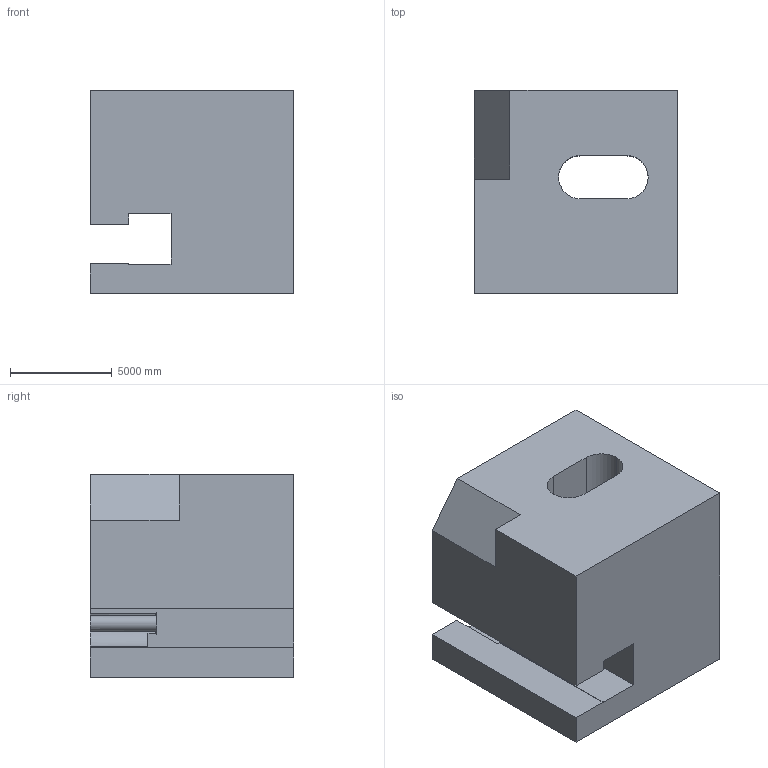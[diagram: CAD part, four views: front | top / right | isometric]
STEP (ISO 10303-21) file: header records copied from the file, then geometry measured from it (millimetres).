
FILE_DESCRIPTION (( 'STEP AP203' ), '1' );
FILE_NAME ('116.STEP', '2022-08-31T11:40:41', ( 'user' ), ( '' ), 'SwSTEP 2.0', 'SolidWorks 2021', '' );
FILE_SCHEMA (( 'CONFIG_CONTROL_DESIGN' ));
Length unit declared in the file: centimetre
Products named in the file (1): 116
Bounding box: 10000 x 10000 x 10000 mm (x, y, z)
Volume: 798634849691.6 mm3; surface area: 786633865.2 mm2
Topology: 1 solids, 1 shells, 33 faces, 99 edges, 66 vertices
Faces by surface type: plane 25, cylinder 8
Entity records: 1283 total; most frequent: CARTESIAN_POINT 303, ORIENTED_EDGE 198, DIRECTION 176, EDGE_CURVE 99, VECTOR 74, LINE 74, VERTEX_POINT 66, AXIS2_PLACEMENT_3D 51
